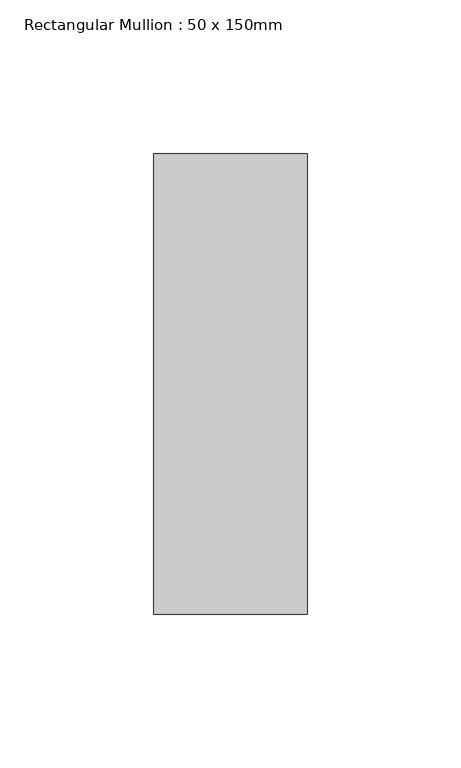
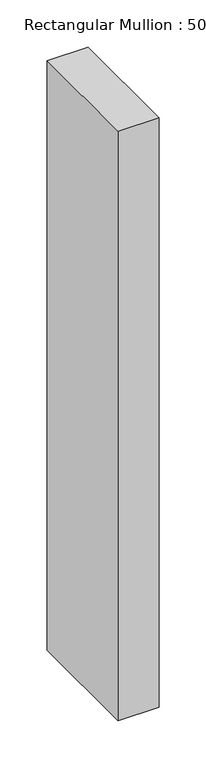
"""IFC4 building model written with IfcOpenShell, lengths in millimetres: member geometry, Rectangular Mullion : 50 x 150mm."""

from ifc_helpers import new_model, si_unit, frame, origin, place, context, project, spatial, polyline, outline, extrude, source, transform, mapped, element, save


def rectangular_mullion_50_x_150mm_13f891bf(model_context):
    return source(origin(), model_context, "Body", "SweptSolid", [
        extrude(outline(polyline([(0.0, 75.0), (0.0, -75.0), (-50.0, -75.0), (-50.0, 75.0), (0.0, 75.0)])), frame((0.0, 0.0, -760.6154779), z_axis=(0.0, 0.0, 1.0), x_axis=(1.0, 0.0, 0.0)), (0.0, 0.0, 1.0), 760.6154779),
    ])


if __name__ == "__main__":
    model = new_model("IFC4")
    model_context = context("Model", 3, world=origin())
    ifc_project = project(units=[si_unit("LENGTHUNIT", "METRE", prefix="MILLI")], contexts=[model_context])
    site = spatial("IfcSite", under=ifc_project)
    building = spatial("IfcBuilding", under=site)
    placement = place(None, origin())
    rectangular_mullion_50_x_150mm_shape = rectangular_mullion_50_x_150mm_13f891bf(model_context)
    element("IfcMember", 1, ObjectType="Rectangular Mullion : 50 x 150mm", at=placement, inside=building, context=model_context, shape_type="MappedRepresentation", body=[
        mapped(rectangular_mullion_50_x_150mm_shape, transform((0.0, 0.0, 0.0), x_axis=(1.0, 0.0, 0.0), y_axis=(0.0, 1.0, 0.0), z_axis=(0.0, 0.0, 1.0))),
    ])
    save(model, "model.ifc")
